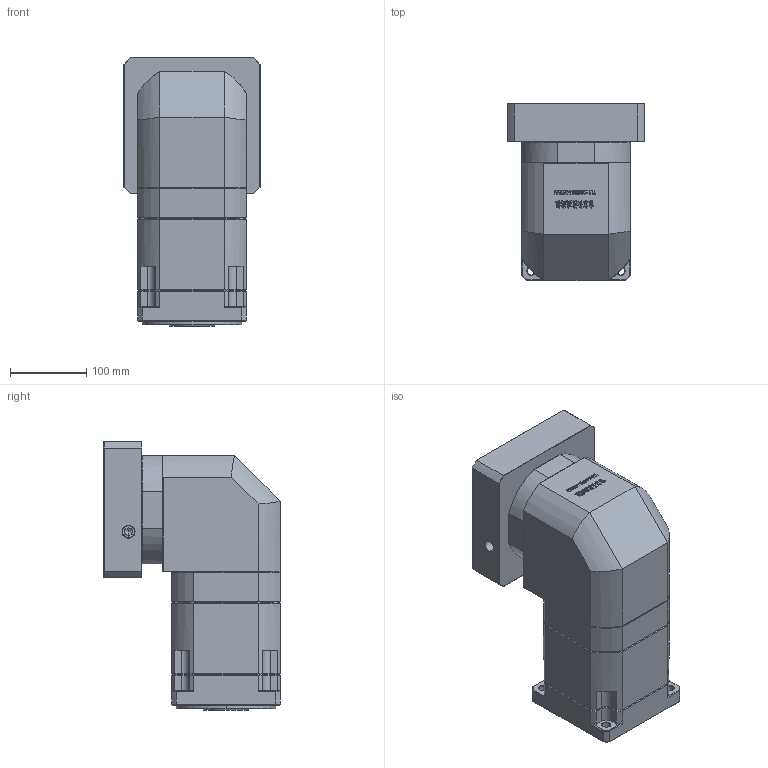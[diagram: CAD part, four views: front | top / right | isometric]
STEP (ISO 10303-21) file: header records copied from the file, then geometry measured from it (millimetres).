
FILE_DESCRIPTION (( 'STEP AP214' ), '1' );
FILE_NAME ('ZBR142A-K35-L3-35-150-200-M12.step', '2023-03-18T09:28:37', ( '' ), ( '' ), 'SwSTEP 2.0', 'SolidWorks 2016', '' );
FILE_SCHEMA (( 'AUTOMOTIVE_DESIGN' ));
Length unit declared in the file: millimetre
Products named in the file (1): ZBR142A-K35-L3-35-150-200-M12
Bounding box: 178 x 231 x 351.7 mm (x, y, z)
Volume: 7252252.1 mm3; surface area: 462618.6 mm2
Topology: 6 solids, 6 shells, 2865 faces, 7639 edges, 4922 vertices
Faces by surface type: plane 1545, bspline 585, cylinder 381, cone 334, torus 20
Entity records: 156772 total; most frequent: CARTESIAN_POINT 58289, ORIENTED_EDGE 15222, DIRECTION 11575, EDGE_CURVE 7611, LINE 5175, VECTOR 5175, VERTEX_POINT 4922, AXIS2_PLACEMENT_3D 3200
